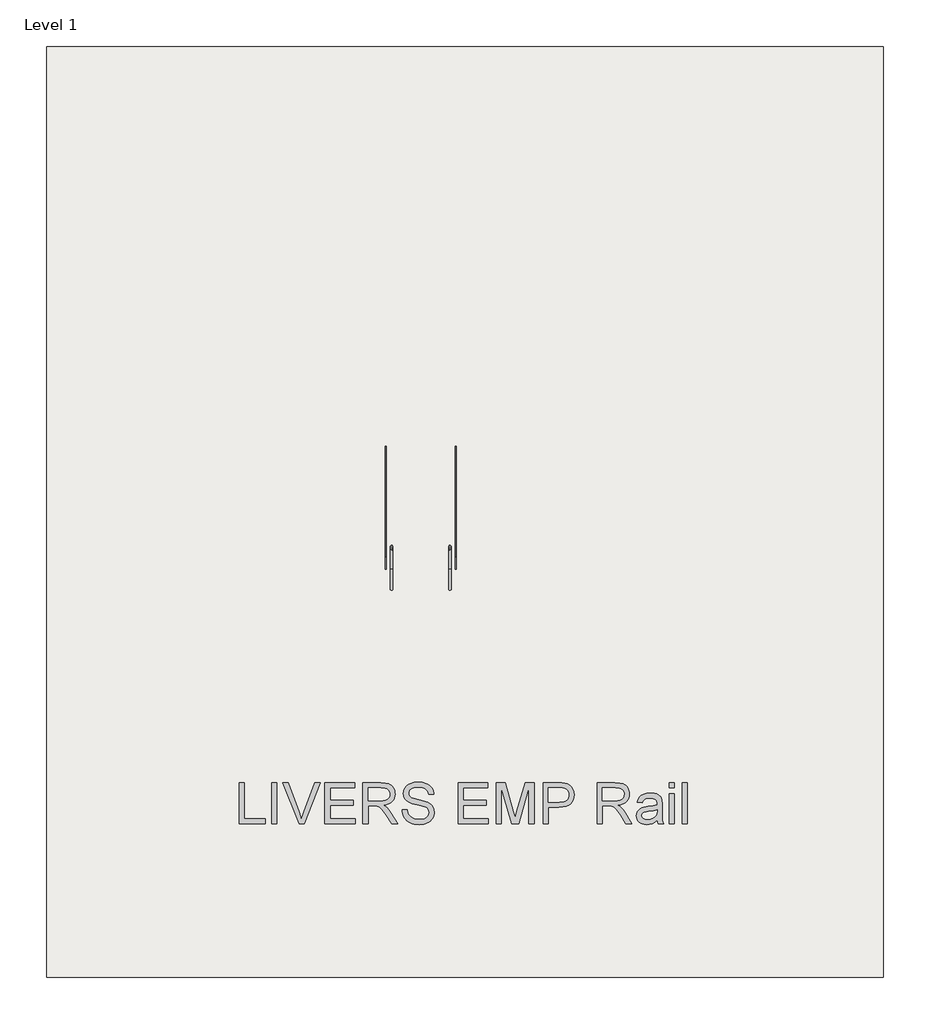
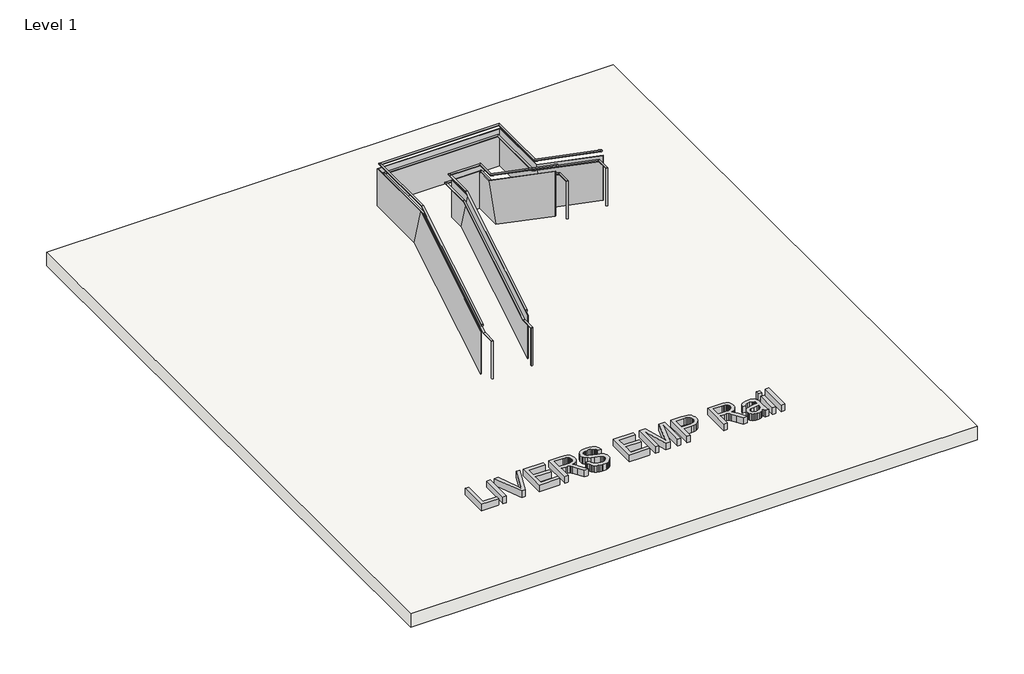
# One storey, incomplete: 2 railings, 1 proxy, 1 slab.
"""IFC4 building model written with IfcOpenShell, lengths in millimetres."""

from ifc_helpers import new_model, si_unit, frame, origin, origin_with_axes, place, context, project, spatial, polyline, circle_curve, ellipse_curve, outline, extrude, faceted_brep, element, save
from ifc_brep_helpers import plane_surface, cylinder_surface, advanced_brep

model = new_model("IFC4")

# Units and contexts
model_context = context("Model", 3, world=origin())
ifc_project = project(units=[si_unit("LENGTHUNIT", "METRE", prefix="MILLI")], contexts=[model_context])

# Site, building, storey
site = spatial("IfcSite", under=ifc_project)
building = spatial("IfcBuilding", under=site)
storey = spatial("IfcBuildingStorey", under=building, Name="Level 1", Elevation=0.0)

# Proxy
placement = place(None, origin())
element("IfcBuildingElementProxy", 1, Name="24\" Arial", ObjectType="24\" Arial", at=placement, inside=storey, context=model_context, shape_type="SweptSolid", body=[
    extrude(outline(polyline([(6383.422685, -14928.1448033), (6383.422685, -14327.9232648), (6458.4503774, -14327.9232648), (6458.4503774, -14853.117111), (6758.5611466, -14853.117111), (6758.5611466, -14928.1448033), (6383.422685, -14928.1448033)])), origin_with_axes(), (0.0, 0.0, 1.0), 152.4),
    extrude(outline(polyline([(6852.345762, -14928.1448033), (6852.345762, -14327.9232648), (6927.3734543, -14327.9232648), (6927.3734543, -14928.1448033), (6852.345762, -14928.1448033)])), origin_with_axes(), (0.0, 0.0, 1.0), 152.4),
    extrude(outline(polyline([(7254.7403774, -14928.1448033), (7015.882685, -14327.9232648), (7096.185762, -14327.9232648), (7256.0592235, -14760.3582648), (7288.4442235, -14857.8063418), (7320.3896081, -14760.3582648), (7480.702685, -14327.9232648), (7561.005762, -14327.9232648), (7332.2592235, -14928.1448033), (7254.7403774, -14928.1448033)])), origin_with_axes(), (0.0, 0.0, 1.0), 152.4),
    extrude(outline(polyline([(7630.7580697, -14928.1448033), (7630.7580697, -14327.9232648), (8062.1673004, -14327.9232648), (8062.1673004, -14402.9509571), (7705.785762, -14402.9509571), (7705.785762, -14581.1417264), (8043.4103774, -14581.1417264), (8043.4103774, -14656.1694187), (7705.785762, -14656.1694187), (7705.785762, -14853.117111), (8071.545762, -14853.117111), (8071.545762, -14928.1448033), (7630.7580697, -14928.1448033)])), origin_with_axes(), (0.0, 0.0, 1.0), 152.4),
    extrude(outline(polyline([(8184.0873004, -14928.1448033), (8184.0873004, -14327.9232648), (8442.727685, -14327.9232648), (8512.2418677, -14331.9713898), (8562.8159543, -14344.1157648), (8582.3330456, -14353.768986), (8599.7802812, -14366.5361494), (8615.157661, -14382.4172552), (8628.465185, -14401.4123033), (8639.2037067, -14422.5001038), (8646.8740793, -14444.6594668), (8651.4763028, -14467.8903922), (8653.0103774, -14492.1928802), (8650.4688509, -14523.0209091), (8642.8442716, -14551.3211494), (8630.1366394, -14577.0936014), (8612.3459543, -14600.3382648), (8589.2432499, -14620.3132889), (8560.59956, -14636.2768225), (8526.4148846, -14648.2288658), (8486.6892235, -14656.1694187), (8511.4175889, -14672.3252841), (8529.3319158, -14688.2613418), (8560.0683581, -14724.7127841), (8590.1453774, -14765.487111), (8690.2311466, -14928.1448033), (8603.040762, -14928.1448033), (8524.935762, -14803.7336494), (8468.5184543, -14721.3790341), (8447.545137, -14697.3650437), (8428.8798004, -14682.4730725), (8393.197685, -14668.1855725), (8349.675762, -14665.5478802), (8259.1149927, -14665.5478802), (8259.1149927, -14928.1448033), (8184.0873004, -14928.1448033)]), holes=[polyline([(8259.1149927, -14590.5201879), (8427.0480697, -14590.5201879), (8475.2775408, -14587.8641783), (8512.6998004, -14579.8961494), (8540.8718197, -14566.0848994), (8561.3505697, -14545.8992264), (8573.8246562, -14521.4822552), (8577.982685, -14494.977111), (8575.9998365, -14475.7897312), (8570.0512908, -14458.3791302), (8560.137048, -14442.7453081), (8546.2571081, -14428.8882648), (8528.0909182, -14417.5406927), (8505.3179254, -14409.4352841), (8477.9381298, -14404.5720389), (8445.9515312, -14402.9509571), (8259.1149927, -14402.9509571), (8259.1149927, -14590.5201879)])]), origin_with_axes(), (0.0, 0.0, 1.0), 152.4),
    extrude(outline(polyline([(8756.1734543, -14721.8186494), (8831.2011466, -14721.8186494), (8839.8102812, -14763.4538898), (8855.3799927, -14796.919611), (8879.6687427, -14823.4797071), (8914.4349927, -14844.3980725), (8956.9311466, -14857.9711975), (9004.4096081, -14862.4955725), (9046.2097043, -14859.070236), (9082.807685, -14848.7942264), (9112.4634062, -14832.5284571), (9133.4367235, -14811.1338418), (9145.91081, -14786.5703321), (9150.0688389, -14760.7978802), (9146.9548966, -14735.6848514), (9137.6130697, -14713.9788418), (9118.6363389, -14695.4600437), (9086.617685, -14679.9086494), (8977.373262, -14651.2603802), (8905.6610024, -14632.3019668), (8859.7761466, -14614.2594187), (8822.4271562, -14589.0181687), (8795.9586466, -14558.4282648), (8780.1874447, -14523.1491302), (8774.9303774, -14483.8401879), (8776.5560384, -14461.4976519), (8781.4330216, -14439.8969668), (8789.5613269, -14419.0381326), (8800.9409543, -14398.9211494), (8815.4436826, -14380.3657168), (8832.9412908, -14364.1915341), (8853.4337788, -14350.3986014), (8876.9211466, -14338.9869187), (8929.7116274, -14323.6553321), (8988.1438389, -14318.5448033), (9051.4484543, -14323.8934571), (9106.8399927, -14339.9394187), (9131.0737908, -14351.8914619), (9152.340185, -14366.3529764), (9170.6391754, -14383.3239619), (9185.970762, -14402.8044187), (9198.2158822, -14424.22651), (9207.2554735, -14447.0223994), (9213.089536, -14471.1920869), (9215.7180697, -14496.7355725), (9140.6903774, -14496.7355725), (9135.671435, -14472.7948514), (9126.915762, -14451.9680725), (9114.4233581, -14434.255236), (9098.1942235, -14419.6563418), (9077.9261225, -14408.2446591), (9053.3168197, -14400.0934571), (9024.3663149, -14395.202736), (8991.0746081, -14393.5724956), (8956.7204975, -14395.1844187), (8927.367012, -14400.0201879), (8903.0141514, -14408.0798033), (8883.6619158, -14419.3632648), (8868.9164831, -14432.9272312), (8858.3840312, -14447.828361), (8852.06456, -14464.0666543), (8849.9580697, -14481.642111), (8851.4509302, -14496.7630485), (8855.929512, -14510.4735533), (8863.3938149, -14522.7736254), (8873.8438389, -14533.6632648), (8890.2927812, -14543.9759091), (8916.1934543, -14554.3984571), (8996.3499927, -14575.5732648), (9079.0709543, -14595.6856687), (9129.1138389, -14613.2336494), (9171.8847524, -14640.4531687), (9188.4207019, -14656.4533369), (9201.7236466, -14674.047111), (9211.9492836, -14693.1429043), (9219.25331, -14713.6491302), (9225.0965312, -14758.8928802), (9223.4159182, -14782.3619307), (9218.3740793, -14805.1440821), (9209.9710144, -14827.2393345), (9198.2067235, -14848.6476879), (9183.2872764, -14868.5402841), (9165.4187427, -14886.0882648), (9144.6011225, -14901.2916302), (9120.8344158, -14914.1503802), (9094.8101009, -14924.3760172), (9067.2196562, -14931.6800437), (9007.3403774, -14937.5232648), (8968.9610384, -14935.9479764), (8933.8330216, -14931.222111), (8901.9563269, -14923.3456687), (8873.3309543, -14912.3186494), (8847.7828894, -14898.122736), (8825.1381177, -14880.739611), (8805.3966394, -14860.1692744), (8788.5584543, -14836.4117264), (8774.9944879, -14810.2362937), (8765.0756658, -14782.4123033), (8758.8019879, -14752.9397552), (8756.1734543, -14721.8186494)])), origin_with_axes(), (0.0, 0.0, 1.0), 152.4),
    extrude(outline(polyline([(9572.0996081, -14928.1448033), (9572.0996081, -14327.9232648), (10003.5088389, -14327.9232648), (10003.5088389, -14402.9509571), (9647.1273004, -14402.9509571), (9647.1273004, -14581.1417264), (9984.7519158, -14581.1417264), (9984.7519158, -14656.1694187), (9647.1273004, -14656.1694187), (9647.1273004, -14853.117111), (10012.8873004, -14853.117111), (10012.8873004, -14928.1448033), (9572.0996081, -14928.1448033)])), origin_with_axes(), (0.0, 0.0, 1.0), 152.4),
    extrude(outline(polyline([(10125.4288389, -14928.1448033), (10125.4288389, -14327.9232648), (10254.5292235, -14327.9232648), (10377.3284543, -14750.9798033), (10402.0934543, -14839.3424956), (10428.9099927, -14743.6528802), (10549.657685, -14327.9232648), (10678.7580697, -14327.9232648), (10678.7580697, -14928.1448033), (10603.7303774, -14928.1448033), (10603.7303774, -14402.9509571), (10452.9423004, -14928.1448033), (10351.2446081, -14928.1448033), (10200.4565312, -14402.9509571), (10200.4565312, -14928.1448033), (10125.4288389, -14928.1448033)])), origin_with_axes(), (0.0, 0.0, 1.0), 152.4),
    extrude(outline(polyline([(10810.0565312, -14928.1448033), (10810.0565312, -14327.9232648), (11032.5019158, -14327.9232648), (11084.303262, -14329.3520148), (11122.1834543, -14333.6382648), (11162.170137, -14344.3172552), (11195.0863389, -14361.7003802), (11221.5914831, -14386.5752841), (11242.3449927, -14419.729611), (11255.753262, -14458.8370629), (11260.222685, -14501.5713418), (11257.2049086, -14538.4166062), (11248.1515793, -14572.3127841), (11233.0626971, -14603.2598754), (11211.938262, -14631.2578802), (11182.9373846, -14654.4659091), (11144.2191754, -14671.0430725), (11095.7836346, -14680.9893706), (11037.630762, -14684.3048033), (10885.0842235, -14684.3048033), (10885.0842235, -14928.1448033), (10810.0565312, -14928.1448033)]), holes=[polyline([(10885.0842235, -14609.277111), (11042.0269158, -14609.277111), (11078.112012, -14607.5552841), (11108.5553774, -14602.3898033), (11133.357012, -14593.7806687), (11152.5169158, -14581.7278802), (11166.8135745, -14566.5519908), (11177.0254735, -14548.5735533), (11183.1526129, -14527.7925677), (11185.1949927, -14504.2090341), (11180.3775408, -14470.5051879), (11165.925185, -14442.0767264), (11143.6330216, -14420.682111), (11115.2961466, -14408.0798033), (11086.3548004, -14404.2331687), (11040.2684543, -14402.9509571), (10885.0842235, -14402.9509571), (10885.0842235, -14609.277111)])]), origin_with_axes(), (0.0, 0.0, 1.0), 152.4),
    extrude(outline(polyline([(11597.8473004, -14928.1448033), (11597.8473004, -14327.9232648), (11856.487685, -14327.9232648), (11926.0018677, -14331.9713898), (11976.5759543, -14344.1157648), (11996.0930456, -14353.768986), (12013.5402812, -14366.5361494), (12028.917661, -14382.4172552), (12042.225185, -14401.4123033), (12052.9637067, -14422.5001038), (12060.6340793, -14444.6594668), (12065.2363028, -14467.8903922), (12066.7703774, -14492.1928802), (12064.2288509, -14523.0209091), (12056.6042716, -14551.3211494), (12043.8966394, -14577.0936014), (12026.1059543, -14600.3382648), (12003.0032499, -14620.3132889), (11974.35956, -14636.2768225), (11940.1748846, -14648.2288658), (11900.4492235, -14656.1694187), (11925.1775889, -14672.3252841), (11943.0919158, -14688.2613418), (11973.8283581, -14724.7127841), (12003.9053774, -14765.487111), (12103.9911466, -14928.1448033), (12016.800762, -14928.1448033), (11938.695762, -14803.7336494), (11882.2784543, -14721.3790341), (11861.305137, -14697.3650437), (11842.6398004, -14682.4730725), (11806.957685, -14668.1855725), (11763.435762, -14665.5478802), (11672.8749927, -14665.5478802), (11672.8749927, -14928.1448033), (11597.8473004, -14928.1448033)]), holes=[polyline([(11672.8749927, -14590.5201879), (11840.8080697, -14590.5201879), (11889.0375408, -14587.8641783), (11926.4598004, -14579.8961494), (11954.6318197, -14566.0848994), (11975.1105697, -14545.8992264), (11987.5846562, -14521.4822552), (11991.742685, -14494.977111), (11989.7598365, -14475.7897312), (11983.8112908, -14458.3791302), (11973.897048, -14442.7453081), (11960.0171081, -14428.8882648), (11941.8509182, -14417.5406927), (11919.0779254, -14409.4352841), (11891.6981298, -14404.5720389), (11859.7115312, -14402.9509571), (11672.8749927, -14402.9509571), (11672.8749927, -14590.5201879)])]), origin_with_axes(), (0.0, 0.0, 1.0), 152.4),
    extrude(outline(polyline([(12470.0442235, -14871.8740341), (12434.1972524, -14902.6104764), (12397.2878774, -14922.7228802), (12358.4735024, -14933.8231687), (12316.9115312, -14937.5232648), (12283.5053413, -14935.2977119), (12254.211387, -14928.6210533), (12229.0296682, -14917.4932889), (12207.960185, -14901.9144187), (12191.3234903, -14882.8735773), (12179.440137, -14861.3598994), (12172.3101249, -14837.373385), (12169.9334543, -14810.9140341), (12173.5236466, -14779.8112456), (12184.2942235, -14751.5659571), (12200.9080216, -14727.387111), (12222.0278774, -14708.4836494), (12246.8478293, -14694.1961494), (12274.5619158, -14683.8651879), (12339.4784543, -14672.5817264), (12416.1913389, -14660.712111), (12469.6046081, -14646.7909571), (12470.0442235, -14630.0855725), (12464.8787427, -14596.6015341), (12458.4218918, -14584.2007168), (12449.3823004, -14574.6940341), (12433.757637, -14565.2056687), (12414.7259543, -14558.4282648), (12366.4415312, -14553.0063418), (12321.7473004, -14556.6148514), (12290.5346081, -14567.4403802), (12269.2498966, -14587.4611975), (12254.3396081, -14618.6555725), (12179.3119158, -14609.277111), (12192.3355216, -14568.2463418), (12211.770185, -14536.0078802), (12239.4293197, -14511.3527841), (12277.1263389, -14493.072111), (12323.2310024, -14481.7520148), (12376.1130697, -14477.9786494), (12426.8336947, -14481.3123994), (12467.040185, -14491.3136494), (12497.3553293, -14506.3521591), (12518.4019158, -14524.7976879), (12532.3597043, -14547.602736), (12541.4084543, -14575.7198033), (12545.0719158, -14641.3690341), (12545.0719158, -14734.7140341), (12548.8819158, -14865.0599956), (12554.5236466, -14897.2801398), (12563.8288389, -14928.1448033), (12488.8011466, -14928.1448033), (12476.7849927, -14902.0609571), (12470.0442235, -14871.8740341)]), holes=[polyline([(12470.0442235, -14721.8186494), (12419.6349927, -14734.3110533), (12349.0034543, -14744.8251879), (12284.453262, -14756.9878802), (12267.6562908, -14765.3039379), (12255.2188389, -14776.7705725), (12247.5255697, -14790.5085533), (12244.9611466, -14805.6386494), (12250.5479254, -14827.9491302), (12267.308262, -14846.2298033), (12294.87581, -14858.4291302), (12332.8842235, -14862.4955725), (12373.1823004, -14858.0078321), (12408.7911466, -14844.544611), (12437.6592235, -14824.7069668), (12457.7349927, -14801.0959571), (12466.6372043, -14776.7705725), (12469.6046081, -14743.0667264), (12470.0442235, -14721.8186494)])]), origin_with_axes(), (0.0, 0.0, 1.0), 152.4),
    extrude(outline(polyline([(12648.2349927, -14928.1448033), (12648.2349927, -14487.357111), (12723.262685, -14487.357111), (12723.262685, -14928.1448033), (12648.2349927, -14928.1448033)])), origin_with_axes(), (0.0, 0.0, 1.0), 152.4),
    extrude(outline(polyline([(12648.2349927, -14402.9509571), (12648.2349927, -14327.9232648), (12723.262685, -14327.9232648), (12723.262685, -14402.9509571), (12648.2349927, -14402.9509571)])), origin_with_axes(), (0.0, 0.0, 1.0), 152.4),
    extrude(outline(polyline([(12835.8042235, -14928.1448033), (12835.8042235, -14327.9232648), (12910.8319158, -14327.9232648), (12910.8319158, -14928.1448033), (12835.8042235, -14928.1448033)])), origin_with_axes(), (0.0, 0.0, 1.0), 152.4),
])

# Railings
element("IfcRailing", 2, ObjectType="LIVERS_EMP", at=placement, inside=storey, context=model_context, shape_type="SolidModel", body=[
    advanced_brep(
    [(8620.6219928, -11502.068989, 169.3333333), (8582.5219928, -11502.068989, 169.3333333), (8620.6219928, -11502.068989, 1013.8833333), (8582.5219928, -11502.068989, 1013.8833333), (8620.6219928, -11210.9968354, 1013.8833333), (8582.5219928, -11210.9968354, 1013.8833333), (8620.6219928, -8975.7968354, 2368.55), (8582.5219928, -8975.7968354, 2368.55), (8620.6219928, -7473.7403352, 2368.55), (8582.5219928, -7435.6403352, 2368.55), (11043.0399969, -7473.7403352, 2368.55), (11081.1399969, -7435.6403352, 2368.55), (11043.0399969, -8742.597114, 2368.55), (11081.1399969, -8742.597114, 2368.55), (11043.0399969, -11222.272114, 4086.0738095), (11081.1399969, -11222.272114, 4086.0738095), (11043.0399969, -11502.068989, 4086.0738095), (11081.1399969, -11502.068989, 4086.0738095), (11043.0399969, -11502.068989, 3241.5238095), (11081.1399969, -11502.068989, 3241.5238095)],
    [
        (0, 1, circle_curve(frame((8601.5719928, -11502.068989, 169.3333333), z_axis=(0.0, 0.0, -1.0), x_axis=(-1.0, 0.0, 0.0)), 19.05)),
        (1, 0, circle_curve(frame((8601.5719928, -11502.068989, 169.3333333), z_axis=(0.0, 0.0, -1.0), x_axis=(-1.0, 0.0, 0.0)), 19.05)),
        (0, 2),
        (2, 3, ellipse_curve(frame((8601.5719928, -11502.068989, 1013.8833333), z_axis=(0.0, -0.7071067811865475, -0.7071067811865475), x_axis=(0.0, 0.7071067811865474, -0.7071067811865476)), 26.9407684, 19.05)),
        (3, 1),
        (3, 2, ellipse_curve(frame((8601.5719928, -11502.068989, 1013.8833333), z_axis=(0.0, -0.7071067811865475, -0.7071067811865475), x_axis=(0.0, 0.7071067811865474, -0.7071067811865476)), 26.9407684, 19.05)),
        (2, 4),
        (4, 5, ellipse_curve(frame((8601.5719928, -11210.9968354, 1013.8833333), z_axis=(0.0, -0.9631193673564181, -0.26907449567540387), x_axis=(0.0, -0.2690744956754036, 0.963119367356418)), 19.7794797, 19.05)),
        (5, 3),
        (5, 4, ellipse_curve(frame((8601.5719928, -11210.9968354, 1013.8833333), z_axis=(0.0, -0.9631193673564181, -0.26907449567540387), x_axis=(0.0, -0.2690744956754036, 0.963119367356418)), 19.7794797, 19.05)),
        (4, 6),
        (6, 7, ellipse_curve(frame((8601.5719928, -8975.7968354, 2368.55), z_axis=(0.0, -0.9631193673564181, -0.2690744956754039), x_axis=(0.0, 0.2690744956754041, -0.9631193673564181)), 19.7794797, 19.05)),
        (7, 5),
        (7, 6, ellipse_curve(frame((8601.5719928, -8975.7968354, 2368.55), z_axis=(0.0, -0.9631193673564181, -0.2690744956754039), x_axis=(0.0, 0.2690744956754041, -0.9631193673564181)), 19.7794797, 19.05)),
        (6, 8),
        (8, 9, ellipse_curve(frame((8601.5719928, -7454.6903352, 2368.55), z_axis=(-0.7071067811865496, -0.7071067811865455, 0.0), x_axis=(0.7071067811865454, -0.7071067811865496, 0.0)), 26.9407684, 19.05)),
        (9, 7),
        (9, 8, ellipse_curve(frame((8601.5719928, -7454.6903352, 2368.55), z_axis=(-0.7071067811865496, -0.7071067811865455, 0.0), x_axis=(0.7071067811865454, -0.7071067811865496, 0.0)), 26.9407684, 19.05)),
        (8, 10),
        (10, 11, ellipse_curve(frame((11062.0899969, -7454.6903352, 2368.55), z_axis=(-0.7071067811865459, 0.7071067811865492, 0.0), x_axis=(-0.707106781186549, -0.7071067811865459, 0.0)), 26.9407684, 19.05)),
        (11, 9),
        (11, 10, ellipse_curve(frame((11062.0899969, -7454.6903352, 2368.55), z_axis=(-0.7071067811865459, 0.7071067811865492, 0.0), x_axis=(-0.707106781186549, -0.7071067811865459, 0.0)), 26.9407684, 19.05)),
        (10, 12),
        (12, 13, ellipse_curve(frame((11062.0899969, -8742.597114, 2368.55), z_axis=(0.0, 0.9544799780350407, -0.2982749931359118), x_axis=(0.0, 0.29827499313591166, 0.9544799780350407)), 19.9585119, 19.05)),
        (13, 11),
        (13, 12, ellipse_curve(frame((11062.0899969, -8742.597114, 2368.55), z_axis=(0.0, 0.9544799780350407, -0.2982749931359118), x_axis=(0.0, 0.29827499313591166, 0.9544799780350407)), 19.9585119, 19.05)),
        (12, 14),
        (14, 15, ellipse_curve(frame((11062.0899969, -11222.272114, 4086.0738095), z_axis=(0.0, 0.9544799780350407, -0.2982749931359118), x_axis=(0.0, -0.29827499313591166, -0.9544799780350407)), 19.9585119, 19.05)),
        (15, 13),
        (15, 14, ellipse_curve(frame((11062.0899969, -11222.272114, 4086.0738095), z_axis=(0.0, 0.9544799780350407, -0.2982749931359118), x_axis=(0.0, -0.29827499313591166, -0.9544799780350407)), 19.9585119, 19.05)),
        (14, 16),
        (16, 17, ellipse_curve(frame((11062.0899969, -11502.068989, 4086.0738095), z_axis=(0.0, 0.7071067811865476, 0.7071067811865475), x_axis=(0.0, 0.7071067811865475, -0.7071067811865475)), 26.9407684, 19.05)),
        (17, 15),
        (17, 16, ellipse_curve(frame((11062.0899969, -11502.068989, 4086.0738095), z_axis=(0.0, 0.7071067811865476, 0.7071067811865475), x_axis=(0.0, 0.7071067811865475, -0.7071067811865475)), 26.9407684, 19.05)),
        (18, 19, circle_curve(frame((11062.0899969, -11502.068989, 3241.5238095), z_axis=(0.0, 0.0, -1.0), x_axis=(1.0, 0.0, 0.0)), 19.05)),
        (19, 18, circle_curve(frame((11062.0899969, -11502.068989, 3241.5238095), z_axis=(0.0, 0.0, -1.0), x_axis=(1.0, 0.0, 0.0)), 19.05)),
        (16, 18),
        (19, 17),
    ],
    [
        plane_surface(frame((8601.5719928, -11559.218989, 169.3333333), z_axis=(0.0, 0.0, -1.0), x_axis=(1.0, 0.0, 0.0))),
        cylinder_surface(frame((8601.5719928, -11502.068989, 169.3333333), z_axis=(0.0, 0.0, -1.0), x_axis=(-1.0, 0.0, 0.0)), 19.05),
        cylinder_surface(frame((8601.5719928, -11521.118989, 1013.8833333), z_axis=(0.0, -1.0, 0.0), x_axis=(-1.0, 0.0, 0.0)), 19.05),
        cylinder_surface(frame((8601.5719928, -11206.4453413, 1016.6418146), z_axis=(0.0, -0.8551978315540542, -0.5183017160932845), x_axis=(-1.0, 0.0, 0.0)), 19.05),
        cylinder_surface(frame((8601.5719928, -8981.118989, 2368.55), z_axis=(0.0, -1.0, 0.0), x_axis=(-1.0, 0.0, 0.0)), 19.05),
        cylinder_surface(frame((8601.5719928, -7454.6903352, 2368.55), z_axis=(-1.0, 0.0, 0.0), x_axis=(0.0, 1.0, 0.0)), 19.05),
        cylinder_surface(frame((11062.0899969, -7454.6903352, 2368.55), z_axis=(0.0, 1.0, 0.0), x_axis=(1.0, 0.0, 0.0)), 19.05),
        cylinder_surface(frame((11062.0899969, -8747.4909641, 2371.9396797), z_axis=(0.0, 0.8220640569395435, -0.569395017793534), x_axis=(1.0, 0.0, 0.0)), 19.05),
        cylinder_surface(frame((11062.0899969, -11216.318989, 4086.0738095), z_axis=(0.0, 1.0, 0.0), x_axis=(1.0, 0.0, 0.0)), 19.05),
        plane_surface(frame((11062.0899969, -11559.218989, 3241.5238095), z_axis=(0.0, 0.0, -1.0), x_axis=(-1.0, 0.0, 0.0))),
        cylinder_surface(frame((11062.0899969, -11502.068989, 4105.1238095), z_axis=(0.0, 0.0, 1.0), x_axis=(1.0, 0.0, 0.0)), 19.05),
    ],
    [
        (0, [[1, 2]]),
        (1, [[-1, 3, 4, 5]]),
        (1, [[-2, -5, 6, -3]]),
        (2, [[-4, 7, 8, 9]]),
        (2, [[-6, -9, 10, -7]]),
        (3, [[-8, 11, 12, 13]]),
        (3, [[-10, -13, 14, -11]]),
        (4, [[-12, 15, 16, 17]]),
        (4, [[-14, -17, 18, -15]]),
        (5, [[-16, 19, 20, 21]]),
        (5, [[-18, -21, 22, -19]]),
        (6, [[-20, 23, 24, 25]]),
        (6, [[-22, -25, 26, -23]]),
        (7, [[-24, 27, 28, 29]]),
        (7, [[-26, -29, 30, -27]]),
        (8, [[-28, 31, 32, 33]]),
        (8, [[-30, -33, 34, -31]]),
        (9, [[35, 36]]),
        (10, [[-32, 37, -36, 38]]),
        (10, [[-34, -38, -35, -37]]),
    ],
),
    faceted_brep([(8512.6719928, -11216.318989, 1096.4333333), (8512.6719928, -11216.318989, 116.3092391), (8525.3719928, -11216.318989, 116.3092391), (8525.3719928, -11216.318989, 1096.4333333), (8512.6719928, -8981.118989, 2451.1), (8512.6719928, -8746.9442336, 1612.9), (8525.3719928, -8746.9442336, 1612.9), (8525.3719928, -8981.118989, 2451.1), (8512.6719928, -7365.7903352, 2451.1), (8512.6719928, -7365.7903352, 1612.9), (8525.3719928, -7378.4903352, 1612.9), (8525.3719928, -7378.4903352, 2451.1), (11150.9899969, -7365.7903352, 2451.1), (11150.9899969, -7365.7903352, 1612.9), (11138.2899969, -7378.4903352, 1612.9), (11138.2899969, -7378.4903352, 2451.1), (11150.9899969, -8736.643989, 2451.1), (11150.9899969, -8998.581489, 1612.9), (11138.2899969, -8998.581489, 1612.9), (11138.2899969, -8736.643989, 2451.1), (11150.9899969, -11216.318989, 4168.6238095), (11138.2899969, -11216.318989, 4168.6238095), (11138.2899969, -11216.318989, 3148.9952381), (11150.9899969, -11216.318989, 3148.9952381)], [[[0, 1, 2, 3]], [[1, 0, 4, 5]], [[2, 1, 5, 6]], [[3, 2, 6, 7]], [[0, 3, 7, 4]], [[5, 4, 8, 9]], [[6, 5, 9, 10]], [[7, 6, 10, 11]], [[4, 7, 11, 8]], [[9, 8, 12, 13]], [[10, 9, 13, 14]], [[11, 10, 14, 15]], [[8, 11, 15, 12]], [[13, 12, 16, 17]], [[14, 13, 17, 18]], [[15, 14, 18, 19]], [[12, 15, 19, 16]], [[20, 21, 22, 23]], [[17, 16, 20, 23]], [[18, 17, 23, 22]], [[19, 18, 22, 21]], [[16, 19, 21, 20]]]),
    advanced_brep(
    [(8572.9969928, -11216.318989, 1213.8577857), (8534.8969928, -11216.318989, 1213.8577857), (8572.9969928, -8975.7968354, 2571.75), (8534.8969928, -8975.7968354, 2571.75), (8572.9969928, -7426.1153352, 2571.75), (8534.8969928, -7388.0153352, 2571.75), (11090.6649969, -7426.1153352, 2571.75), (11128.7649969, -7388.0153352, 2571.75), (11090.6649969, -8742.597114, 2571.75), (11128.7649969, -8742.597114, 2571.75), (11090.6649969, -11216.318989, 4285.1504329), (11128.7649969, -11216.318989, 4285.1504329)],
    [
        (0, 1, ellipse_curve(frame((8553.9469928, -11216.318989, 1213.8577857), z_axis=(0.0, -1.0, 0.0), x_axis=(0.0, 0.0, -1.0)), 22.2755476, 19.05)),
        (1, 0, ellipse_curve(frame((8553.9469928, -11216.318989, 1213.8577857), z_axis=(0.0, -1.0, 0.0), x_axis=(0.0, 0.0, -1.0)), 22.2755476, 19.05)),
        (0, 2),
        (2, 3, ellipse_curve(frame((8553.9469928, -8975.7968354, 2571.75), z_axis=(0.0, -0.9631193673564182, -0.26907449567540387), x_axis=(0.0, 0.2690744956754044, -0.9631193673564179)), 19.7794797, 19.05)),
        (3, 1),
        (3, 2, ellipse_curve(frame((8553.9469928, -8975.7968354, 2571.75), z_axis=(0.0, -0.9631193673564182, -0.26907449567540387), x_axis=(0.0, 0.2690744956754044, -0.9631193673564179)), 19.7794797, 19.05)),
        (2, 4),
        (4, 5, ellipse_curve(frame((8553.9469928, -7407.0653352, 2571.75), z_axis=(-0.7071067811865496, -0.7071067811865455, 0.0), x_axis=(0.7071067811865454, -0.7071067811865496, 0.0)), 26.9407684, 19.05)),
        (5, 3),
        (5, 4, ellipse_curve(frame((8553.9469928, -7407.0653352, 2571.75), z_axis=(-0.7071067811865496, -0.7071067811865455, 0.0), x_axis=(0.7071067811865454, -0.7071067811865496, 0.0)), 26.9407684, 19.05)),
        (4, 6),
        (6, 7, ellipse_curve(frame((11109.7149969, -7407.0653352, 2571.75), z_axis=(-0.7071067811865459, 0.7071067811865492, 0.0), x_axis=(-0.707106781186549, -0.7071067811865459, 0.0)), 26.9407684, 19.05)),
        (7, 5),
        (7, 6, ellipse_curve(frame((11109.7149969, -7407.0653352, 2571.75), z_axis=(-0.7071067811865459, 0.7071067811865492, 0.0), x_axis=(-0.707106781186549, -0.7071067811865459, 0.0)), 26.9407684, 19.05)),
        (6, 8),
        (8, 9, ellipse_curve(frame((11109.7149969, -8742.597114, 2571.75), z_axis=(0.0, 0.9544799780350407, -0.29827499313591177), x_axis=(0.0, 0.29827499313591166, 0.9544799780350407)), 19.9585119, 19.05)),
        (9, 7),
        (9, 8, ellipse_curve(frame((11109.7149969, -8742.597114, 2571.75), z_axis=(0.0, 0.9544799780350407, -0.29827499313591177), x_axis=(0.0, 0.29827499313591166, 0.9544799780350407)), 19.9585119, 19.05)),
        (10, 11, ellipse_curve(frame((11109.7149969, -11216.318989, 4285.1504329), z_axis=(0.0, -1.0, 0.0), x_axis=(0.0, 0.0, -1.0)), 23.1733766, 19.05)),
        (11, 10, ellipse_curve(frame((11109.7149969, -11216.318989, 4285.1504329), z_axis=(0.0, -1.0, 0.0), x_axis=(0.0, 0.0, -1.0)), 23.1733766, 19.05)),
        (8, 10),
        (11, 9),
    ],
    [
        plane_surface(frame((8553.9469928, -11216.318989, 1236.1333333), z_axis=(0.0, -1.0, 0.0), x_axis=(0.0, 0.0, 1.0))),
        cylinder_surface(frame((8553.9469928, -11206.4453413, 1219.8418146), z_axis=(0.0, -0.8551978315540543, -0.5183017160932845), x_axis=(-1.0, 0.0, 0.0)), 19.05),
        cylinder_surface(frame((8553.9469928, -8981.118989, 2571.75), z_axis=(0.0, -1.0, 0.0), x_axis=(-1.0, 0.0, 0.0)), 19.05),
        cylinder_surface(frame((8553.9469928, -7407.0653352, 2571.75), z_axis=(-1.0, 0.0, 0.0), x_axis=(0.0, 1.0, 0.0)), 19.05),
        cylinder_surface(frame((11109.7149969, -7407.0653352, 2571.75), z_axis=(0.0, 1.0, 0.0), x_axis=(1.0, 0.0, 0.0)), 19.05),
        plane_surface(frame((11109.7149969, -11216.318989, 4308.3238095), z_axis=(0.0, -1.0, 0.0), x_axis=(0.0, 0.0, -1.0))),
        cylinder_surface(frame((11109.7149969, -8747.4909641, 2575.1396797), z_axis=(0.0, 0.8220640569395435, -0.569395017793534), x_axis=(1.0, 0.0, 0.0)), 19.05),
    ],
    [
        (0, [[1, 2]]),
        (1, [[-1, 3, 4, 5]]),
        (1, [[-2, -5, 6, -3]]),
        (2, [[-4, 7, 8, 9]]),
        (2, [[-6, -9, 10, -7]]),
        (3, [[-8, 11, 12, 13]]),
        (3, [[-10, -13, 14, -11]]),
        (4, [[-12, 15, 16, 17]]),
        (4, [[-14, -17, 18, -15]]),
        (5, [[19, 20]]),
        (6, [[-16, 21, -20, 22]]),
        (6, [[-18, -22, -19, -21]]),
    ],
),
])
element("IfcRailing", 3, ObjectType="LIVERS_EMP", at=placement, inside=storey, context=model_context, shape_type="SolidModel", body=[
    advanced_brep(
    [(9471.5219928, -11502.068989, 169.3333333), (9433.4219928, -11502.068989, 169.3333333), (9471.5219928, -11502.068989, 1013.8833333), (9433.4219928, -11502.068989, 1013.8833333), (9471.5219928, -11210.9968354, 1013.8833333), (9433.4219928, -11210.9968354, 1013.8833333), (9471.5219928, -8975.7968354, 2368.55), (9433.4219928, -8975.7968354, 2368.55), (9471.5219928, -8324.6403352, 2368.55), (9433.4219928, -8286.5403352, 2368.55), (10192.1399969, -8324.6403352, 2368.55), (10230.2399969, -8286.5403352, 2368.55), (10192.1399969, -8742.597114, 2368.55), (10230.2399969, -8742.597114, 2368.55), (10230.2399969, -11222.272114, 4086.0738095), (10192.1399969, -11222.272114, 4086.0738095), (10192.1399969, -11502.068989, 4086.0738095), (10230.2399969, -11502.068989, 4086.0738095), (10192.1399969, -11502.068989, 3241.5238095), (10230.2399969, -11502.068989, 3241.5238095)],
    [
        (0, 1, circle_curve(frame((9452.4719928, -11502.068989, 169.3333333), z_axis=(0.0, 0.0, -1.0), x_axis=(-1.0, 0.0, 0.0)), 19.05)),
        (1, 0, circle_curve(frame((9452.4719928, -11502.068989, 169.3333333), z_axis=(0.0, 0.0, -1.0), x_axis=(-1.0, 0.0, 0.0)), 19.05)),
        (0, 2),
        (2, 3, ellipse_curve(frame((9452.4719928, -11502.068989, 1013.8833333), z_axis=(0.0, -0.7071067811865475, -0.7071067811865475), x_axis=(0.0, 0.7071067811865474, -0.7071067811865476)), 26.9407684, 19.05)),
        (3, 1),
        (3, 2, ellipse_curve(frame((9452.4719928, -11502.068989, 1013.8833333), z_axis=(0.0, -0.7071067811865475, -0.7071067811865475), x_axis=(0.0, 0.7071067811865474, -0.7071067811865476)), 26.9407684, 19.05)),
        (2, 4),
        (4, 5, ellipse_curve(frame((9452.4719928, -11210.9968354, 1013.8833333), z_axis=(0.0, -0.9631193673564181, -0.269074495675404), x_axis=(0.0, -0.26907449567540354, 0.9631193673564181)), 19.7794797, 19.05)),
        (5, 3),
        (5, 4, ellipse_curve(frame((9452.4719928, -11210.9968354, 1013.8833333), z_axis=(0.0, -0.9631193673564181, -0.269074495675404), x_axis=(0.0, -0.26907449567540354, 0.9631193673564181)), 19.7794797, 19.05)),
        (4, 6),
        (6, 7, ellipse_curve(frame((9452.4719928, -8975.7968354, 2368.55), z_axis=(0.0, -0.9631193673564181, -0.2690744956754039), x_axis=(0.0, 0.2690744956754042, -0.9631193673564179)), 19.7794797, 19.05)),
        (7, 5),
        (7, 6, ellipse_curve(frame((9452.4719928, -8975.7968354, 2368.55), z_axis=(0.0, -0.9631193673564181, -0.2690744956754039), x_axis=(0.0, 0.2690744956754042, -0.9631193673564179)), 19.7794797, 19.05)),
        (6, 8),
        (8, 9, ellipse_curve(frame((9452.4719928, -8305.5903352, 2368.55), z_axis=(-0.7071067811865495, -0.7071067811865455, 0.0), x_axis=(0.7071067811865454, -0.7071067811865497, 0.0)), 26.9407684, 19.05)),
        (9, 7),
        (9, 8, ellipse_curve(frame((9452.4719928, -8305.5903352, 2368.55), z_axis=(-0.7071067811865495, -0.7071067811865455, 0.0), x_axis=(0.7071067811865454, -0.7071067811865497, 0.0)), 26.9407684, 19.05)),
        (8, 10),
        (10, 11, ellipse_curve(frame((10211.1899969, -8305.5903352, 2368.55), z_axis=(-0.7071067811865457, 0.7071067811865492, 0.0), x_axis=(-0.7071067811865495, -0.7071067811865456, 0.0)), 26.9407684, 19.05)),
        (11, 9),
        (11, 10, ellipse_curve(frame((10211.1899969, -8305.5903352, 2368.55), z_axis=(-0.7071067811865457, 0.7071067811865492, 0.0), x_axis=(-0.7071067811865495, -0.7071067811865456, 0.0)), 26.9407684, 19.05)),
        (10, 12),
        (12, 13, ellipse_curve(frame((10211.1899969, -8742.597114, 2368.55), z_axis=(0.0, 0.9544799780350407, -0.29827499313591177), x_axis=(0.0, 0.2982749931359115, 0.9544799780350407)), 19.9585119, 19.05)),
        (13, 11),
        (13, 12, ellipse_curve(frame((10211.1899969, -8742.597114, 2368.55), z_axis=(0.0, 0.9544799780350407, -0.29827499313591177), x_axis=(0.0, 0.2982749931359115, 0.9544799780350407)), 19.9585119, 19.05)),
        (14, 15, ellipse_curve(frame((10211.1899969, -11222.272114, 4086.0738095), z_axis=(0.0, -0.9544799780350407, 0.2982749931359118), x_axis=(0.0, 0.29827499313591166, 0.9544799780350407)), 19.9585119, 19.05)),
        (15, 16),
        (16, 17, ellipse_curve(frame((10211.1899969, -11502.068989, 4086.0738095), z_axis=(0.0, 0.7071067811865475, 0.7071067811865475), x_axis=(0.0, 0.7071067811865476, -0.7071067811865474)), 26.9407684, 19.05)),
        (17, 14),
        (15, 14, ellipse_curve(frame((10211.1899969, -11222.272114, 4086.0738095), z_axis=(0.0, -0.9544799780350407, 0.2982749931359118), x_axis=(0.0, 0.29827499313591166, 0.9544799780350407)), 19.9585119, 19.05)),
        (17, 16, ellipse_curve(frame((10211.1899969, -11502.068989, 4086.0738095), z_axis=(0.0, 0.7071067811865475, 0.7071067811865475), x_axis=(0.0, 0.7071067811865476, -0.7071067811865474)), 26.9407684, 19.05)),
        (18, 19, circle_curve(frame((10211.1899969, -11502.068989, 3241.5238095), z_axis=(0.0, 0.0, -1.0), x_axis=(1.0, 0.0, 0.0)), 19.05)),
        (19, 18, circle_curve(frame((10211.1899969, -11502.068989, 3241.5238095), z_axis=(0.0, 0.0, -1.0), x_axis=(1.0, 0.0, 0.0)), 19.05)),
        (16, 18),
        (19, 17),
        (12, 15),
        (14, 13),
    ],
    [
        plane_surface(frame((9452.4719928, -11559.218989, 169.3333333), z_axis=(0.0, 0.0, -1.0), x_axis=(1.0, 0.0, 0.0))),
        cylinder_surface(frame((9452.4719928, -11502.068989, 169.3333333), z_axis=(0.0, 0.0, -1.0), x_axis=(-1.0, 0.0, 0.0)), 19.05),
        cylinder_surface(frame((9452.4719928, -11521.118989, 1013.8833333), z_axis=(0.0, -1.0, 0.0), x_axis=(-1.0, 0.0, 0.0)), 19.05),
        cylinder_surface(frame((9452.4719928, -11206.4453413, 1016.6418146), z_axis=(0.0, -0.855197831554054, -0.5183017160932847), x_axis=(-1.0, 0.0, 0.0)), 19.05),
        cylinder_surface(frame((9452.4719928, -8981.118989, 2368.55), z_axis=(0.0, -1.0, 0.0), x_axis=(-1.0, 0.0, 0.0)), 19.05),
        cylinder_surface(frame((9452.4719928, -8305.5903352, 2368.55), z_axis=(-1.0, 0.0, 0.0), x_axis=(0.0, 1.0, 0.0)), 19.05),
        cylinder_surface(frame((10211.1899969, -8305.5903352, 2368.55), z_axis=(0.0, 1.0, 0.0), x_axis=(1.0, 0.0, 0.0)), 19.05),
        cylinder_surface(frame((10211.1899969, -11216.318989, 4086.0738095), z_axis=(0.0, 1.0, 0.0), x_axis=(1.0, 0.0, 0.0)), 19.05),
        plane_surface(frame((10211.1899969, -11559.218989, 3241.5238095), z_axis=(0.0, 0.0, -1.0), x_axis=(-1.0, 0.0, 0.0))),
        cylinder_surface(frame((10211.1899969, -11502.068989, 4105.1238095), z_axis=(0.0, 0.0, 1.0), x_axis=(1.0, 0.0, 0.0)), 19.05),
        cylinder_surface(frame((10211.1899969, -8747.4909641, 2371.9396797), z_axis=(0.0, 0.8220640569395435, -0.5693950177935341), x_axis=(1.0, 0.0, 0.0)), 19.05),
    ],
    [
        (0, [[1, 2]]),
        (1, [[-1, 3, 4, 5]]),
        (1, [[-2, -5, 6, -3]]),
        (2, [[-4, 7, 8, 9]]),
        (2, [[-6, -9, 10, -7]]),
        (3, [[-8, 11, 12, 13]]),
        (3, [[-10, -13, 14, -11]]),
        (4, [[-12, 15, 16, 17]]),
        (4, [[-14, -17, 18, -15]]),
        (5, [[-16, 19, 20, 21]]),
        (5, [[-18, -21, 22, -19]]),
        (6, [[-20, 23, 24, 25]]),
        (6, [[-22, -25, 26, -23]]),
        (7, [[27, 28, 29, 30]]),
        (7, [[31, -30, 32, -28]]),
        (8, [[33, 34]]),
        (9, [[-29, 35, -34, 36]]),
        (9, [[-32, -36, -33, -35]]),
        (10, [[-24, 37, -27, 38]]),
        (10, [[-26, -38, -31, -37]]),
    ],
),
    faceted_brep([(9528.6719928, -11216.318989, 1096.4333333), (9528.6719928, -11216.318989, 116.3092391), (9541.3719928, -11216.318989, 116.3092391), (9541.3719928, -11216.318989, 1096.4333333), (9528.6719928, -8981.118989, 2451.1), (9528.6719928, -8746.9442336, 1612.9), (9541.3719928, -8746.9442336, 1612.9), (9541.3719928, -8981.118989, 2451.1), (9528.6719928, -8381.7903352, 2451.1), (9528.6719928, -8381.7903352, 1612.9), (9541.3719928, -8394.4903352, 1612.9), (9541.3719928, -8394.4903352, 2451.1), (10134.9899969, -8381.7903352, 2451.1), (10134.9899969, -8381.7903352, 1612.9), (10122.2899969, -8394.4903352, 1612.9), (10122.2899969, -8394.4903352, 2451.1), (10134.9899969, -8736.643989, 2451.1), (10134.9899969, -8998.581489, 1612.9), (10122.2899969, -8998.581489, 1612.9), (10122.2899969, -8736.643989, 2451.1), (10134.9899969, -11216.318989, 4168.6238095), (10122.2899969, -11216.318989, 4168.6238095), (10122.2899969, -11216.318989, 3148.9952381), (10134.9899969, -11216.318989, 3148.9952381)], [[[0, 1, 2, 3]], [[1, 0, 4, 5]], [[2, 1, 5, 6]], [[3, 2, 6, 7]], [[0, 3, 7, 4]], [[5, 4, 8, 9]], [[6, 5, 9, 10]], [[7, 6, 10, 11]], [[4, 7, 11, 8]], [[9, 8, 12, 13]], [[10, 9, 13, 14]], [[11, 10, 14, 15]], [[8, 11, 15, 12]], [[13, 12, 16, 17]], [[14, 13, 17, 18]], [[15, 14, 18, 19]], [[12, 15, 19, 16]], [[20, 21, 22, 23]], [[17, 16, 20, 23]], [[18, 17, 23, 22]], [[19, 18, 22, 21]], [[16, 19, 21, 20]]]),
    advanced_brep(
    [(9519.1469928, -11216.318989, 1213.8577857), (9481.0469928, -11216.318989, 1213.8577857), (9519.1469928, -8975.7968354, 2571.75), (9481.0469928, -8975.7968354, 2571.75), (9519.1469928, -8372.2653352, 2571.75), (9481.0469928, -8334.1653352, 2571.75), (10144.5149969, -8372.2653352, 2571.75), (10182.6149969, -8334.1653352, 2571.75), (10144.5149969, -8742.597114, 2571.75), (10182.6149969, -8742.597114, 2571.75), (10144.5149969, -11216.318989, 4285.1504329), (10182.6149969, -11216.318989, 4285.1504329)],
    [
        (0, 1, ellipse_curve(frame((9500.0969928, -11216.318989, 1213.8577857), z_axis=(0.0, -1.0, 0.0), x_axis=(0.0, 0.0, -1.0)), 22.2755476, 19.05)),
        (1, 0, ellipse_curve(frame((9500.0969928, -11216.318989, 1213.8577857), z_axis=(0.0, -1.0, 0.0), x_axis=(0.0, 0.0, -1.0)), 22.2755476, 19.05)),
        (0, 2),
        (2, 3, ellipse_curve(frame((9500.0969928, -8975.7968354, 2571.75), z_axis=(0.0, -0.9631193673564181, -0.26907449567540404), x_axis=(0.0, 0.26907449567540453, -0.9631193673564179)), 19.7794797, 19.05)),
        (3, 1),
        (3, 2, ellipse_curve(frame((9500.0969928, -8975.7968354, 2571.75), z_axis=(0.0, -0.9631193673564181, -0.26907449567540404), x_axis=(0.0, 0.26907449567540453, -0.9631193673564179)), 19.7794797, 19.05)),
        (2, 4),
        (4, 5, ellipse_curve(frame((9500.0969928, -8353.2153352, 2571.75), z_axis=(-0.7071067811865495, -0.7071067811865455, 0.0), x_axis=(0.7071067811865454, -0.7071067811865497, 0.0)), 26.9407684, 19.05)),
        (5, 3),
        (5, 4, ellipse_curve(frame((9500.0969928, -8353.2153352, 2571.75), z_axis=(-0.7071067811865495, -0.7071067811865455, 0.0), x_axis=(0.7071067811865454, -0.7071067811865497, 0.0)), 26.9407684, 19.05)),
        (4, 6),
        (6, 7, ellipse_curve(frame((10163.5649969, -8353.2153352, 2571.75), z_axis=(-0.7071067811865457, 0.7071067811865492, 0.0), x_axis=(-0.7071067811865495, -0.7071067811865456, 0.0)), 26.9407684, 19.05)),
        (7, 5),
        (7, 6, ellipse_curve(frame((10163.5649969, -8353.2153352, 2571.75), z_axis=(-0.7071067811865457, 0.7071067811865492, 0.0), x_axis=(-0.7071067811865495, -0.7071067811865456, 0.0)), 26.9407684, 19.05)),
        (6, 8),
        (8, 9, ellipse_curve(frame((10163.5649969, -8742.597114, 2571.75), z_axis=(0.0, 0.9544799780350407, -0.2982749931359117), x_axis=(0.0, 0.29827499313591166, 0.9544799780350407)), 19.9585119, 19.05)),
        (9, 7),
        (9, 8, ellipse_curve(frame((10163.5649969, -8742.597114, 2571.75), z_axis=(0.0, 0.9544799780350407, -0.2982749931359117), x_axis=(0.0, 0.29827499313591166, 0.9544799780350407)), 19.9585119, 19.05)),
        (10, 11, ellipse_curve(frame((10163.5649969, -11216.318989, 4285.1504329), z_axis=(0.0, -1.0, 0.0), x_axis=(0.0, 0.0, -1.0)), 23.1733766, 19.05)),
        (11, 10, ellipse_curve(frame((10163.5649969, -11216.318989, 4285.1504329), z_axis=(0.0, -1.0, 0.0), x_axis=(0.0, 0.0, -1.0)), 23.1733766, 19.05)),
        (8, 10),
        (11, 9),
    ],
    [
        plane_surface(frame((9500.0969928, -11216.318989, 1236.1333333), z_axis=(0.0, -1.0, 0.0), x_axis=(0.0, 0.0, 1.0))),
        cylinder_surface(frame((9500.0969928, -11206.4453413, 1219.8418146), z_axis=(0.0, -0.8551978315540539, -0.5183017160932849), x_axis=(-1.0, 0.0, 0.0)), 19.05),
        cylinder_surface(frame((9500.0969928, -8981.118989, 2571.75), z_axis=(0.0, -1.0, 0.0), x_axis=(-1.0, 0.0, 0.0)), 19.05),
        cylinder_surface(frame((9500.0969928, -8353.2153352, 2571.75), z_axis=(-1.0, 0.0, 0.0), x_axis=(0.0, 1.0, 0.0)), 19.05),
        cylinder_surface(frame((10163.5649969, -8353.2153352, 2571.75), z_axis=(0.0, 1.0, 0.0), x_axis=(1.0, 0.0, 0.0)), 19.05),
        plane_surface(frame((10163.5649969, -11216.318989, 4308.3238095), z_axis=(0.0, -1.0, 0.0), x_axis=(0.0, 0.0, -1.0))),
        cylinder_surface(frame((10163.5649969, -8747.4909641, 2575.1396797), z_axis=(0.0, 0.8220640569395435, -0.569395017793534), x_axis=(1.0, 0.0, 0.0)), 19.05),
    ],
    [
        (0, [[1, 2]]),
        (1, [[-1, 3, 4, 5]]),
        (1, [[-2, -5, 6, -3]]),
        (2, [[-4, 7, 8, 9]]),
        (2, [[-6, -9, 10, -7]]),
        (3, [[-8, 11, 12, 13]]),
        (3, [[-10, -13, 14, -11]]),
        (4, [[-12, 15, 16, 17]]),
        (4, [[-14, -17, 18, -15]]),
        (5, [[19, 20]]),
        (6, [[-16, 21, -20, 22]]),
        (6, [[-18, -22, -19, -21]]),
    ],
),
])

# Slab
element("IfcSlab", 4, ObjectType="Generic - 12\"", at=placement, inside=storey, context=model_context, shape_type="SweptSolid", body=[
    extrude(outline(polyline([(15766.4915274, -3601.0325125), (15766.4915274, -17164.6325125), (3574.4915274, -17164.6325125), (3574.4915274, -3601.0325125), (15766.4915274, -3601.0325125)])), frame((0.0, 0.0, -304.8), z_axis=(0.0, 0.0, 1.0), x_axis=(1.0, 0.0, 0.0)), (0.0, 0.0, 1.0), 304.8),
])

save(model, "model.ifc")
